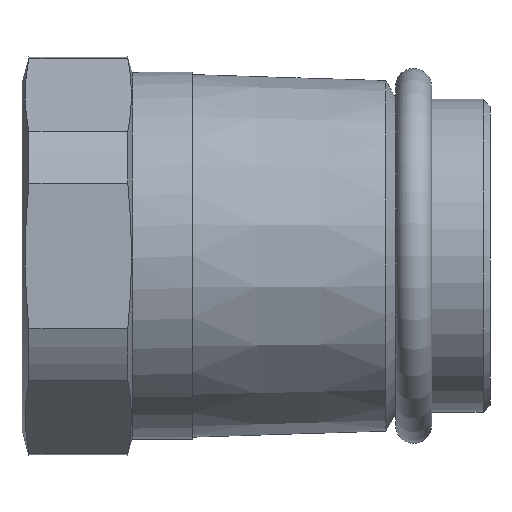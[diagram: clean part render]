
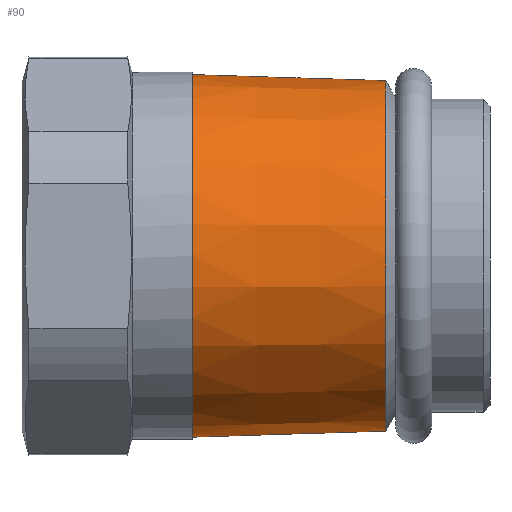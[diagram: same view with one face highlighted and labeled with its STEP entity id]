
A CAD part, left-side view. The second image highlights one B-rep face of the part: STEP entity #90.
In plain terms, the highlighted conical face has half-angle 1.788 degrees and reference radius 13.169 mm.
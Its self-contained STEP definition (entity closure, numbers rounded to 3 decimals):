
#90 = ADVANCED_FACE( '', ( #144, #145 ), #146, .T. );
#144 = FACE_BOUND( '', #217, .T. );
#145 = FACE_OUTER_BOUND( '', #218, .T. );
#146 = CONICAL_SURFACE( '', #219, 13.169, 0.031 );
#217 = EDGE_LOOP( '', ( #349 ) );
#218 = EDGE_LOOP( '', ( #350 ) );
#219 = AXIS2_PLACEMENT_3D( '', #351, #352, #353 );
#349 = ORIENTED_EDGE( '', *, *, #475, .F. );
#350 = ORIENTED_EDGE( '', *, *, #476, .T. );
#351 = CARTESIAN_POINT( '', ( 0., 21.63, 0. ) );
#352 = DIRECTION( '', ( 0., 1., 0. ) );
#353 = DIRECTION( '', ( 0., 0., 1. ) );
#475 = EDGE_CURVE( '', #557, #557, #558, .T. );
#476 = EDGE_CURVE( '', #559, #559, #560, .T. );
#557 = VERTEX_POINT( '', #713 );
#558 = CIRCLE( '', #714, 12.73 );
#559 = VERTEX_POINT( '', #715 );
#560 = CIRCLE( '', #716, 13.169 );
#713 = CARTESIAN_POINT( '', ( 0., 7.582, -12.73 ) );
#714 = AXIS2_PLACEMENT_3D( '', #799, #800, #801 );
#715 = CARTESIAN_POINT( '', ( 0., 21.63, -13.169 ) );
#716 = AXIS2_PLACEMENT_3D( '', #802, #803, #804 );
#799 = CARTESIAN_POINT( '', ( 0., 7.582, 0. ) );
#800 = DIRECTION( '', ( 0., -1., 0. ) );
#801 = DIRECTION( '', ( 0., 0., -1. ) );
#802 = CARTESIAN_POINT( '', ( 0., 21.63, 0. ) );
#803 = DIRECTION( '', ( 0., -1., 0. ) );
#804 = DIRECTION( '', ( 0., 0., -1. ) );
